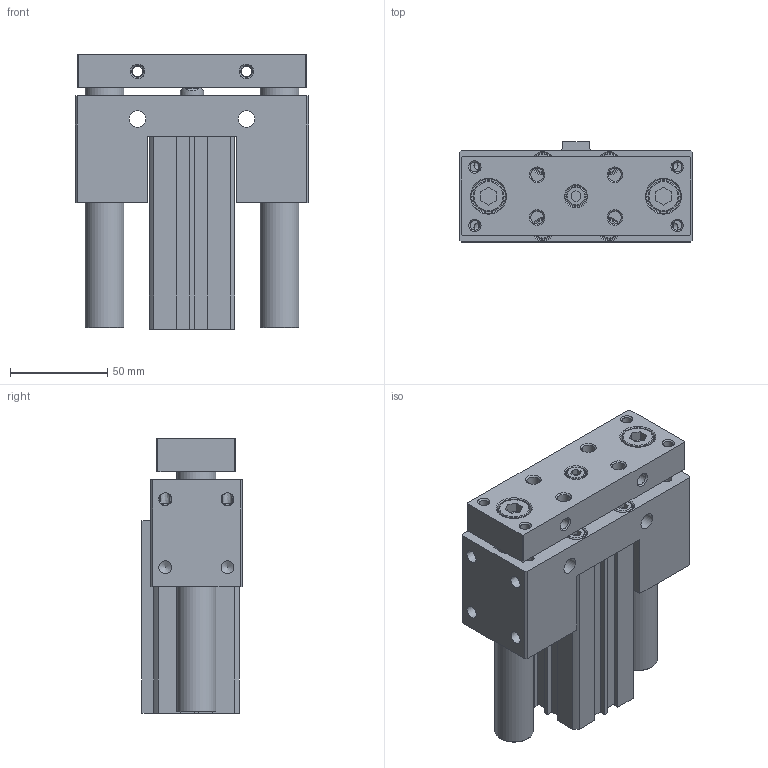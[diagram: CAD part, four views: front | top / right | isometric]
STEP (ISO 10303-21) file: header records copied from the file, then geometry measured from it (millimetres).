
FILE_DESCRIPTION((''),'2;1');
FILE_NAME('I:\3D電子目錄\氣缸\JCB\JCB\JCB32-S\JCB32x65-S.stp','2007-08-21T20:21:32',('Administrator'),(''),'Autodesk Inventor 11','Autodesk Inventor 11','');
FILE_SCHEMA(('AUTOMOTIVE_DESIGN { 1 0 10303 214 1 1 1 1 }'));
Length unit declared in the file: millimetre
Products named in the file (1): JCB32
Bounding box: 120 x 51.5 x 141 mm (x, y, z)
Volume: 498249.7 mm3; surface area: 116361.4 mm2
Topology: 3 solids, 3 shells, 322 faces, 757 edges, 491 vertices
Faces by surface type: plane 174, cylinder 54, bspline 45, cone 41, torus 8
Full cylindrical faces by diameter (mm): 2.2 x2, 5.1 x4, 6 x2, 6.647 x4, 8 x8, 10 x5, 11 x5, 12 x1, 13 x1, 16 x2, 17.5 x2, 20 x2, 22 x1, 23 x3, 34 x4, 36 x2
Entity records: 9312 total; most frequent: CARTESIAN_POINT 2546, DIRECTION 1348, ORIENTED_EDGE 1196, EDGE_CURVE 598, EDGE_LOOP 538, AXIS2_PLACEMENT_3D 496, VERTEX_POINT 460, VECTOR 356
